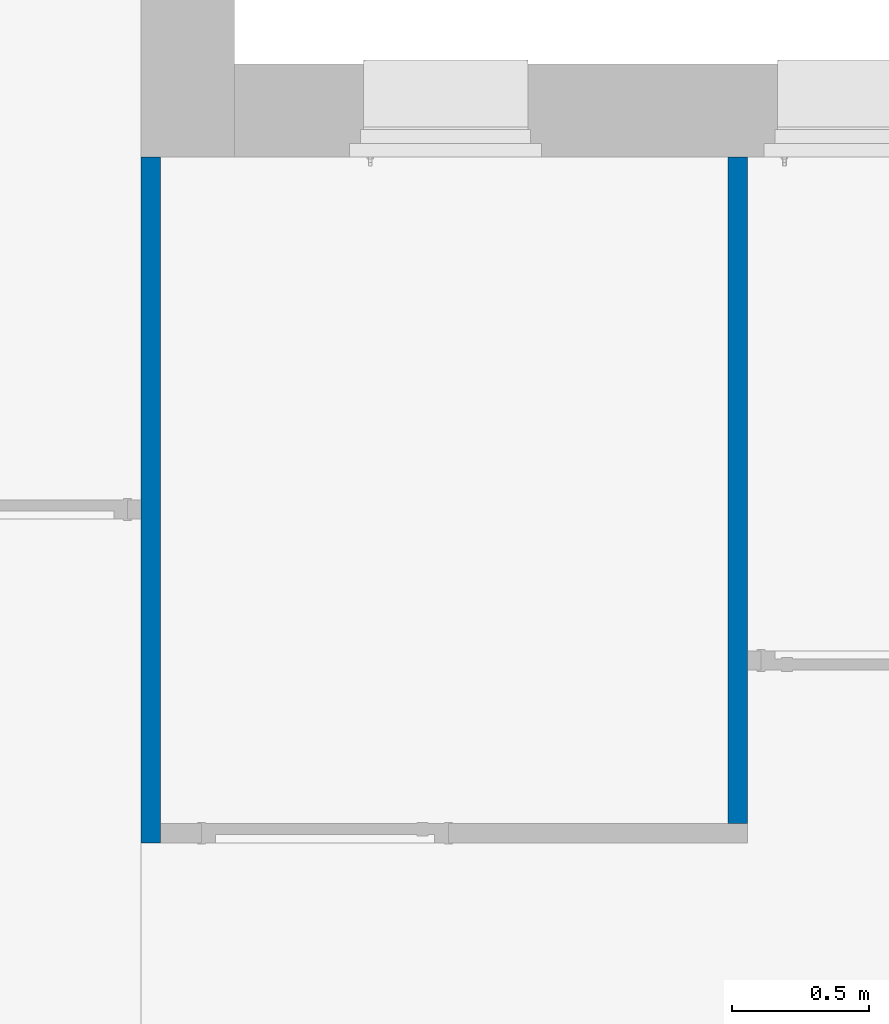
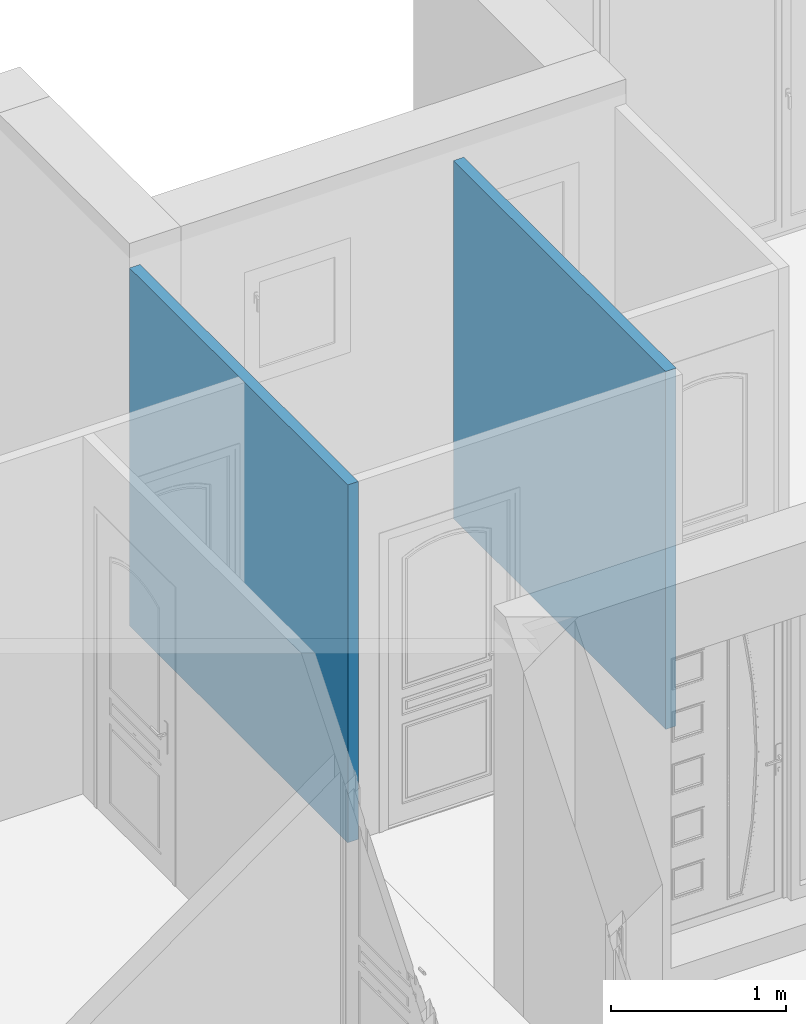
# One storey, part 16 of 23: 2 walls.
"""IFC2X3 building model written with IfcOpenShell, lengths in metres."""

from ifc_helpers import new_model, entity, si_unit, converted_unit, derived_unit, direction, frame, frame_2d, origin, place, context, subcontext, project, spatial, rectangle, extrude, material, layer, layer_set, layer_usage, type_object, element, save


model = new_model("IFC2X3")

# Units and contexts
model_context = context("Model", 3, precision=1e-05, world=origin(), true_north=direction((6.12303176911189e-17, 1.0)))
body_context = subcontext(model_context, "Body", "Model", "MODEL_VIEW")
ifc_project = project(units=[si_unit("LENGTHUNIT", "METRE"), si_unit("AREAUNIT", "SQUARE_METRE"), si_unit("VOLUMEUNIT", "CUBIC_METRE"), converted_unit("PLANEANGLEUNIT", "DEGREE", entity("IfcRatioMeasure", 0.0174532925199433), si_unit("PLANEANGLEUNIT", "RADIAN"), dimensions=[0, 0, 0, 0, 0, 0, 0]), si_unit("MASSUNIT", "GRAM", prefix="KILO"), derived_unit("MASSDENSITYUNIT", [(si_unit("MASSUNIT", "GRAM", prefix="KILO"), 1), (si_unit("LENGTHUNIT", "METRE"), -3)]), si_unit("TIMEUNIT", "SECOND"), si_unit("FREQUENCYUNIT", "HERTZ"), si_unit("THERMODYNAMICTEMPERATUREUNIT", "DEGREE_CELSIUS"), derived_unit("THERMALTRANSMITTANCEUNIT", [(si_unit("MASSUNIT", "GRAM", prefix="KILO"), 1), (si_unit("THERMODYNAMICTEMPERATUREUNIT", "KELVIN"), -1), (si_unit("TIMEUNIT", "SECOND"), -3)]), derived_unit("VOLUMETRICFLOWRATEUNIT", [(si_unit("LENGTHUNIT", "METRE"), 3), (si_unit("TIMEUNIT", "SECOND"), -1)]), si_unit("ELECTRICCURRENTUNIT", "AMPERE"), si_unit("ELECTRICVOLTAGEUNIT", "VOLT"), si_unit("POWERUNIT", "WATT"), si_unit("FORCEUNIT", "NEWTON", prefix="KILO"), si_unit("ILLUMINANCEUNIT", "LUX"), si_unit("LUMINOUSFLUXUNIT", "LUMEN"), si_unit("LUMINOUSINTENSITYUNIT", "CANDELA"), derived_unit("USERDEFINED", [(si_unit("MASSUNIT", "GRAM", prefix="KILO"), -1), (si_unit("LENGTHUNIT", "METRE"), -2), (si_unit("TIMEUNIT", "SECOND"), 3), (si_unit("LUMINOUSFLUXUNIT", "LUMEN"), 1)]), derived_unit("LINEARVELOCITYUNIT", [(si_unit("LENGTHUNIT", "METRE"), 1), (si_unit("TIMEUNIT", "SECOND"), -1)]), si_unit("PRESSUREUNIT", "PASCAL"), derived_unit("USERDEFINED", [(si_unit("LENGTHUNIT", "METRE"), -2), (si_unit("MASSUNIT", "GRAM", prefix="KILO"), 1), (si_unit("TIMEUNIT", "SECOND"), -2)])], contexts=[model_context])

# Site, building, storey
site_placement = place(None, origin())
site = spatial("IfcSite", under=ifc_project, at=site_placement, Name="Default", CompositionType="ELEMENT")
building_placement = place(site_placement, origin())
building = spatial("IfcBuilding", under=site, at=building_placement, CompositionType="ELEMENT")
storey_placement = place(building_placement, origin())
storey = spatial("IfcBuildingStorey", under=building, at=storey_placement, Name="2 - Rez de Chaussée", CompositionType="ELEMENT", Elevation=-1.94916083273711e-14)

# Walls
ifc_material = material(Name="Mur par défaut")
ifc_layer = layer(ifc_material, 0.07)
ifc_layer_set = layer_set([ifc_layer], Name="Mur de base:Cloison distributive Placostil® 72/48 - 1x Placoplatre® BA 13 avec M 48 - EI30 - 33dB - max 3,45m")
ifc_layer_usage_1 = layer_usage(ifc_layer_set, "AXIS2", "NEGATIVE", 0.035)
wall_type = type_object("IfcWallType", Name="Mur de base:Cloison distributive Placostil® 72/48 - 1x Placoplatre® BA 13 avec M 48 - EI30 - 33dB - max 3,45m", PredefinedType="STANDARD", material=ifc_layer_set)
wall_1_placement = place(storey_placement, frame((-4.66122246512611, 4.79805500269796, 0.0), z_axis=(0.0, 0.0, 1.0), x_axis=(0.0, -1.0, 0.0)))
element("IfcWallStandardCase", 1, at=wall_1_placement, inside=storey, type_object=wall_type, material=ifc_layer_usage_1, Name="Mur de base:Cloison distributive Placostil® 72/48 - 1x Placoplatre® BA 13 avec M 48 - EI30 - 33dB - max 3,45m", ObjectType="Mur de base:Cloison distributive Placostil® 72/48 - 1x Placoplatre® BA 13 avec M 48 - EI30 - 33dB - max 3,45m", context=body_context, shape_type="SweptSolid", body=[
    extrude(rectangle(XDim=2.5, YDim=0.0700000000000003, at=frame_2d((1.25, 0.0), x_axis=(-1.0, 0.0))), origin(), (0.0, 0.0, 1.0), 2.50000000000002),
])
ifc_layer_usage_2 = layer_usage(ifc_layer_set, "AXIS2", "NEGATIVE", 0.035)
wall_2_placement = place(storey_placement, frame((-2.52122246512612, 2.36805500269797, 0.0), z_axis=(0.0, 0.0, 1.0), x_axis=(0.0, 1.0, 0.0)))
element("IfcWallStandardCase", 2, at=wall_2_placement, inside=storey, type_object=wall_type, material=ifc_layer_usage_2, Name="Mur de base:Cloison distributive Placostil® 72/48 - 1x Placoplatre® BA 13 avec M 48 - EI30 - 33dB - max 3,45m", ObjectType="Mur de base:Cloison distributive Placostil® 72/48 - 1x Placoplatre® BA 13 avec M 48 - EI30 - 33dB - max 3,45m", context=body_context, shape_type="SweptSolid", body=[
    extrude(rectangle(XDim=2.42999999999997, YDim=0.0700000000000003, at=frame_2d((1.21499999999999, -5.20417042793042e-17), x_axis=(-1.0, 0.0))), origin(), (0.0, 0.0, 1.0), 2.50000000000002),
])

save(model, "model.ifc")
